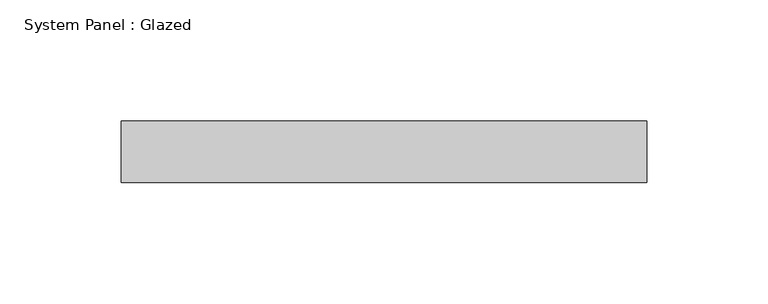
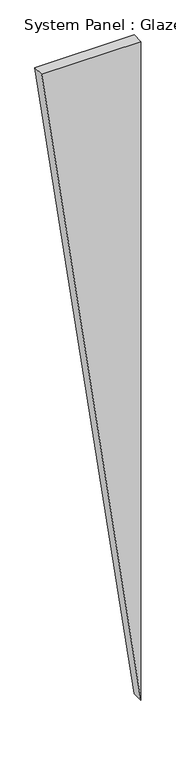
"""IFC4 building model written with IfcOpenShell, lengths in millimetres: plate geometry, System Panel : Glazed."""

from ifc_helpers import new_model, si_unit, frame, origin, place, context, project, spatial, polyline, outline, extrude, source, transform, mapped, element, save


def system_panel_glazed_710431b8(model_context):
    return source(origin(), model_context, "Body", "SweptSolid", [
        extrude(outline(polyline([(1524.0, -108.5226777), (0.0, 108.5226774), (1524.0, 108.5226777), (1524.0, -108.5226777)])), frame((0.0, 19.05, 0.0), z_axis=(0.0, 1.0, 0.0), x_axis=(0.0, 0.0, 1.0)), (0.0, 0.0, 1.0), 25.4),
    ])


if __name__ == "__main__":
    model = new_model("IFC4")
    model_context = context("Model", 3, world=origin())
    ifc_project = project(units=[si_unit("LENGTHUNIT", "METRE", prefix="MILLI")], contexts=[model_context])
    site = spatial("IfcSite", under=ifc_project)
    building = spatial("IfcBuilding", under=site)
    placement = place(None, origin())
    system_panel_glazed_shape = system_panel_glazed_710431b8(model_context)
    element("IfcPlate", 1, ObjectType="System Panel : Glazed", at=placement, inside=building, context=model_context, shape_type="MappedRepresentation", body=[
        mapped(system_panel_glazed_shape, transform((0.0, 0.0, 0.0), x_axis=(1.0, 0.0, 0.0), y_axis=(0.0, 1.0, 0.0), z_axis=(0.0, 0.0, 1.0))),
    ])
    save(model, "model.ifc")
